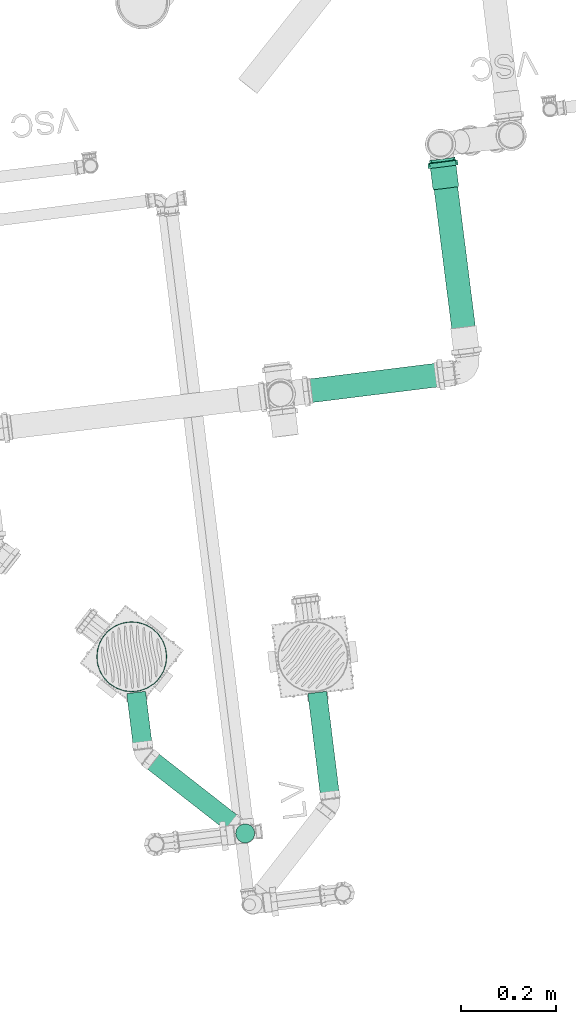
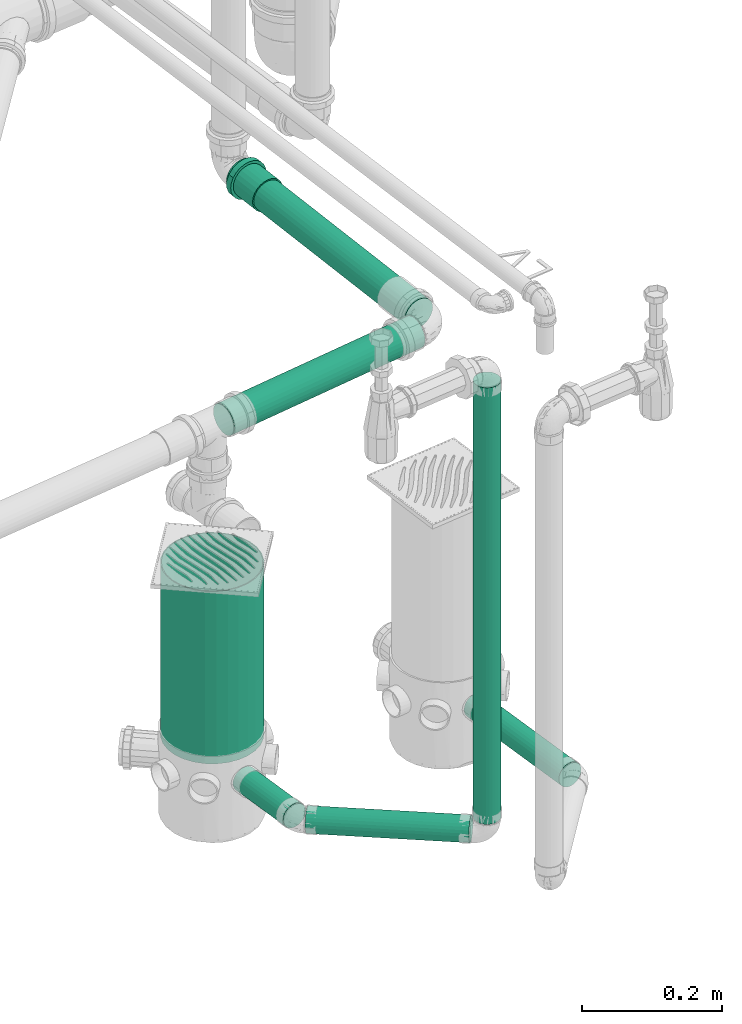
# One storey, part 15 of 97: 6 flow segments, 1 flow fitting, 1 flow terminal.
"""IFC2X3 building model written with IfcOpenShell, lengths in centimetres."""

from ifc_helpers import new_model, entity, si_unit, converted_unit, derived_unit, direction, frame, frame_2d, origin, origin_2d_with_axis, place, context, subcontext, project, spatial, circle, hollow_circle, extrude, faceted_brep, source, transform, mapped, material, type_object, type_shapes, element, save


model = new_model("IFC2X3")

# Units and contexts
model_context = context("Model", 3, precision=0.001, world=origin(), true_north=direction((6.12303176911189e-17, 1.0)))
body_context = subcontext(model_context, "Body", "Model", "MODEL_VIEW")
ifc_project = project(units=[si_unit("LENGTHUNIT", "METRE", prefix="CENTI"), si_unit("AREAUNIT", "SQUARE_METRE"), si_unit("VOLUMEUNIT", "CUBIC_METRE"), converted_unit("PLANEANGLEUNIT", "DEGREE", entity("IfcRatioMeasure", 0.0174532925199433), si_unit("PLANEANGLEUNIT", "RADIAN"), dimensions=[0, 0, 0, 0, 0, 0, 0]), si_unit("MASSUNIT", "GRAM", prefix="KILO"), derived_unit("MASSDENSITYUNIT", [(si_unit("MASSUNIT", "GRAM", prefix="KILO"), 1), (si_unit("LENGTHUNIT", "METRE"), -3)]), derived_unit("MOMENTOFINERTIAUNIT", [(si_unit("LENGTHUNIT", "METRE"), 4)]), si_unit("TIMEUNIT", "SECOND"), si_unit("FREQUENCYUNIT", "HERTZ"), si_unit("THERMODYNAMICTEMPERATUREUNIT", "DEGREE_CELSIUS"), derived_unit("THERMALTRANSMITTANCEUNIT", [(si_unit("MASSUNIT", "GRAM", prefix="KILO"), 1), (si_unit("THERMODYNAMICTEMPERATUREUNIT", "KELVIN"), -1), (si_unit("TIMEUNIT", "SECOND"), -3)]), derived_unit("VOLUMETRICFLOWRATEUNIT", [(si_unit("LENGTHUNIT", "METRE"), 3), (si_unit("TIMEUNIT", "SECOND"), -1)]), si_unit("ELECTRICCURRENTUNIT", "AMPERE"), si_unit("ELECTRICVOLTAGEUNIT", "VOLT"), si_unit("POWERUNIT", "WATT"), si_unit("FORCEUNIT", "NEWTON", prefix="KILO"), si_unit("ILLUMINANCEUNIT", "LUX"), si_unit("LUMINOUSFLUXUNIT", "LUMEN"), si_unit("LUMINOUSINTENSITYUNIT", "CANDELA"), derived_unit("USERDEFINED", [(si_unit("MASSUNIT", "GRAM", prefix="KILO"), -1), (si_unit("LENGTHUNIT", "METRE"), -2), (si_unit("TIMEUNIT", "SECOND"), 3), (si_unit("LUMINOUSFLUXUNIT", "LUMEN"), 1)]), derived_unit("LINEARVELOCITYUNIT", [(si_unit("LENGTHUNIT", "METRE"), 1), (si_unit("TIMEUNIT", "SECOND"), -1)]), si_unit("PRESSUREUNIT", "PASCAL"), derived_unit("USERDEFINED", [(si_unit("LENGTHUNIT", "METRE"), -2), (si_unit("MASSUNIT", "GRAM", prefix="KILO"), 1), (si_unit("TIMEUNIT", "SECOND"), -2)]), derived_unit("LINEARFORCEUNIT", [(si_unit("MASSUNIT", "GRAM", prefix="KILO"), 1), (si_unit("LENGTHUNIT", "METRE"), 1), (si_unit("TIMEUNIT", "SECOND"), -2), (si_unit("LENGTHUNIT", "METRE"), -1)]), derived_unit("PLANARFORCEUNIT", [(si_unit("MASSUNIT", "GRAM", prefix="KILO"), 1), (si_unit("LENGTHUNIT", "METRE"), 1), (si_unit("TIMEUNIT", "SECOND"), -2), (si_unit("LENGTHUNIT", "METRE"), -2)])], contexts=[model_context])

# Site, building, storey
site_placement = place(None, origin())
site = spatial("IfcSite", under=ifc_project, at=site_placement, Name="Default", CompositionType="ELEMENT")
building_placement = place(site_placement, origin())
building = spatial("IfcBuilding", under=site, at=building_placement, Name="HIDROSSANITÁRIO", CompositionType="ELEMENT")
storey_placement = place(building_placement, frame((0.0, 0.0, -260.0)))
storey = spatial("IfcBuildingStorey", under=building, at=storey_placement, Name="TÉRREO-HID", CompositionType="ELEMENT", Elevation=-260.0)

# Flow segments
pipe_segment_type = type_object("IfcPipeSegmentType", Name="Tipos de tubos:Tubo - Esgoto - Série Normal", PredefinedType="NOTDEFINED")
flow_segment_1_placement = place(storey_placement, origin())
element("IfcFlowSegment", 1, at=flow_segment_1_placement, inside=storey, type_object=pipe_segment_type, Name="Tipos de tubos:Tubo - Esgoto - Série Normal", ObjectType="Tipos de tubos:Tubo - Esgoto - Série Normal", context=body_context, shape_type="SweptSolid", body=[
    extrude(circle(Radius=2.5, at=origin_2d_with_axis()), frame((-1623.60552667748, 2855.69252559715, -17.8977394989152), z_axis=(-0.125237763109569, 0.99192523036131, 0.0199960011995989), x_axis=(-0.992123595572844, -0.125262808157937, 0.0)), (0.0, 0.0, 1.0), 41.8274314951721),
])
flow_segment_2_placement = place(storey_placement, origin())
element("IfcFlowSegment", 2, at=flow_segment_2_placement, inside=storey, type_object=pipe_segment_type, Name="Tipos de tubos:Tubo - Esgoto - Série Normal", ObjectType="Tipos de tubos:Tubo - Esgoto - Série Normal", context=body_context, shape_type="SweptSolid", body=[
    extrude(circle(Radius=2.5, at=frame_2d((2.34809378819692e-32, 5.41252306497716e-14), x_axis=(1.0, 0.0))), frame((-1660.11451836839, 2848.01980362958, -18.9042087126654), z_axis=(0.99207609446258, 0.122945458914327, 0.0258734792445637), x_axis=(-0.122986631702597, 0.992408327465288, 0.0)), (0.0, 0.0, 1.0), 34.070046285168),
])
flow_segment_3_placement = place(storey_placement, origin())
element("IfcFlowSegment", 3, at=flow_segment_3_placement, inside=storey, type_object=pipe_segment_type, Name="Tipos de tubos:Tubo - Esgoto - Série Normal", ObjectType="Tipos de tubos:Tubo - Esgoto - Série Normal", context=body_context, shape_type="SweptSolid", body=[
    extrude(circle(Radius=2.0, at=frame_2d((0.0, -4.33146851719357e-13), x_axis=(1.0, 0.0))), frame((-1670.20734491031, 2755.52736173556, -28.3513532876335)), (0.0, 0.0, 1.0), 75.9713532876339),
])
flow_segment_4_placement = place(storey_placement, origin())
element("IfcFlowSegment", 4, at=flow_segment_4_placement, inside=storey, type_object=pipe_segment_type, Name="Tipos de tubos:Tubo - Esgoto - Série Normal", ObjectType="Tipos de tubos:Tubo - Esgoto - Série Normal", context=body_context, shape_type="SweptSolid", body=[
    extrude(circle(Radius=2.0, at=frame_2d((5.31640823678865e-14, 8.59571728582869e-15), x_axis=(1.0, 0.0))), frame((-1655.08128048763, 2785.0851424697, -32.2000000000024), z_axis=(0.12271462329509, -0.992240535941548, 0.0199960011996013), x_axis=(0.992438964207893, 0.122739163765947, 0.0)), (0.0, 0.0, 1.0), 22.4258367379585),
])
flow_segment_5_placement = place(storey_placement, origin())
element("IfcFlowSegment", 5, at=flow_segment_5_placement, inside=storey, type_object=pipe_segment_type, Name="Tipos de tubos:Tubo - Esgoto - Série Normal", ObjectType="Tipos de tubos:Tubo - Esgoto - Série Normal", context=body_context, shape_type="SweptSolid", body=[
    extrude(circle(Radius=2.0, at=origin_2d_with_axis()), frame((-1672.03564967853, 2756.95608330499, -30.7384492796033), z_axis=(-0.787798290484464, 0.615280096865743, -0.0283594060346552), x_axis=(-0.615527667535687, -0.788115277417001, 0.0)), (0.0, 0.0, 1.0), 23.5731330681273),
])
flow_segment_6_placement = place(storey_placement, origin())
element("IfcFlowSegment", 6, at=flow_segment_6_placement, inside=storey, type_object=pipe_segment_type, Name="Tipos de tubos:Tubo - Esgoto - Série Normal", ObjectType="Tipos de tubos:Tubo - Esgoto - Série Normal", context=body_context, shape_type="SweptSolid", body=[
    extrude(circle(Radius=2.0, at=origin_2d_with_axis()), frame((-1691.65196873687, 2773.30648771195, -31.4625007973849), z_axis=(-0.122714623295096, 0.992240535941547, -0.0199960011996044), x_axis=(-0.992438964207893, -0.122739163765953, 0.0)), (0.0, 0.0, 1.0), 11.8773348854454),
])

# Flow fitting
ifc_material_1 = material(Name="PVC Branco")
pipe_fitting_type = type_object("IfcPipeFittingType", Name="Luva Simples para Conexão - Serie Normal - Esgoto - MEP - Tigre:Standard", PredefinedType="NOTDEFINED", material=ifc_material_1)
shared_shape_1 = source(origin(), body_context, "Body", "Brep", [
    faceted_brep([(1.65999999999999, 1.59, -2.75396078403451), (1.65999999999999, 2.24859956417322, -2.24859956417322), (1.65999999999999, 1.35999999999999, -2.35558909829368), (1.65999999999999, 0.703987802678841, -2.62731824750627), (1.65999999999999, 0.82304456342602, -3.07164412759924), (1.65999999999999, 1.9233304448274, -1.92333044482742), (1.65999999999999, 2.75396078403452, -1.59), (1.65999999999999, 2.35558909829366, -1.36000000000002), (1.65999999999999, 2.62731824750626, -0.703987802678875), (1.65999999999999, 3.07164412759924, -0.823044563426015), (1.65999999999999, 2.72, 0.0), (1.65999999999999, 3.18, 0.0), (1.65999999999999, 2.62731824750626, 0.703987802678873), (1.65999999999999, 3.07164412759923, 0.823044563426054), (1.65999999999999, 2.35558909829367, 1.36000000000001), (1.65999999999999, 2.7539607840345, 1.59000000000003), (1.65999999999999, 1.9233304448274, 1.92333044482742), (1.65999999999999, 2.24859956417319, 2.24859956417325), (1.65999999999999, 1.35999999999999, 2.35558909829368), (1.65999999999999, 1.58999999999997, 2.75396078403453), (1.65999999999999, 0.703987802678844, 2.62731824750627), (1.65999999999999, 0.823044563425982, 3.07164412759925), (1.65999999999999, 0.0, 2.72), (1.65999999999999, 0.0, 3.18), (1.65999999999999, -0.703987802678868, 2.62731824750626), (1.65999999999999, -0.823044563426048, 3.07164412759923), (1.65999999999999, -1.36000000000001, 2.35558909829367), (1.65999999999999, -1.59000000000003, 2.7539607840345), (1.65999999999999, -1.92333044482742, 1.9233304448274), (1.65999999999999, -2.24859956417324, 2.2485995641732), (1.65999999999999, -2.35558909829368, 1.35999999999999), (1.65999999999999, -2.75396078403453, 1.58999999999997), (1.65999999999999, -3.07164412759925, 0.823044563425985), (1.65999999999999, -2.62731824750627, 0.703987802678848), (1.65999999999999, -3.18, 0.0), (1.65999999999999, -2.72, 0.0), (1.65999999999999, -3.07164412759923, -0.823044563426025), (1.65999999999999, -2.62731824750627, -0.703987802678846), (1.65999999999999, -2.75396078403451, -1.59000000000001), (1.65999999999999, -2.35558909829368, -1.35999999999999), (1.65999999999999, -2.24859956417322, -2.24859956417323), (1.65999999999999, -1.92333044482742, -1.9233304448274), (1.65999999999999, -1.58999999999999, -2.75396078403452), (1.65999999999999, -1.36000000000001, -2.35558909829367), (1.65999999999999, -0.823044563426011, -3.07164412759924), (1.65999999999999, -0.70398780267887, -2.62731824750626), (1.65999999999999, 0.0, -3.18), (1.65999999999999, 0.0, -2.72), (0.650000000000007, -1.07081089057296, 2.94292196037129), (0.650000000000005, -2.43590738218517, 2.04420038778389), (0.650000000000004, -2.7120498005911, 1.56595386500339), (0.650000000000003, -2.98819221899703, 1.08770734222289), (0.650000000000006, -1.58976972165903, 2.75409372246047), (0.650000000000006, -2.0128385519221, 2.39914705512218), (0.650000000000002, -3.08409610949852, 0.54385367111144), (0.650000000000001, -3.18, 0.0), (0.650000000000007, -0.551852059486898, 3.13175019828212), (0.650000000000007, 0.552637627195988, 3.13161167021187), (0.650000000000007, 0.000392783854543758, 3.13168093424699), (0.650000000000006, 2.01344030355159, 2.39864206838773), (0.650000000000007, 1.07154907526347, 2.94265325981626), (0.650000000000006, 1.59046052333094, 2.75369484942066), (0.650000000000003, 2.98846497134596, 1.08695773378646), (0.650000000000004, 2.7124425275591, 1.56527351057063), (0.650000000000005, 2.43642008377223, 2.0435892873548), (0.650000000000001, 3.18, 0.0), (0.649999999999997, 2.43642008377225, -2.04358928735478), (0.649999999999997, 2.71244252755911, -1.5652735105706), (0.649999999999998, 2.98846497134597, -1.08695773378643), (0.649999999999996, 1.59046052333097, -2.75369484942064), (0.649999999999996, 2.01344030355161, -2.39864206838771), (0.649999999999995, 1.07154907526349, -2.94265325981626), (0.649999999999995, 0.552637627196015, -3.13161167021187), (0.649999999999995, -0.551852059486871, -3.13175019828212), (0.649999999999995, 0.000392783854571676, -3.13168093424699), (0.649999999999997, -2.01283855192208, -2.3991470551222), (0.649999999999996, -1.58976972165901, -2.75409372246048), (0.649999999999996, -1.07081089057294, -2.9429219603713), (0.649999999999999, -2.98819221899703, -1.08770734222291), (0.649999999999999, -2.71204980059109, -1.56595386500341), (0.649999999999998, -2.43590738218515, -2.04420038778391), (0.65, -3.08409610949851, -0.543853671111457), (0.64999999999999, -3.06961738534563, -0.625959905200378), (6.20000000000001, 1.36, -2.35558909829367), (6.20000000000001, 1.92333044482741, -1.92333044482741), (6.20000000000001, 1.24999999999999, -2.1650635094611), (6.20000000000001, 0.647047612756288, -2.41481456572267), (6.20000000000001, 0.70398780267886, -2.62731824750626), (6.20000000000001, 1.76776695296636, -1.76776695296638), (6.20000000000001, 2.35558909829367, -1.36), (6.20000000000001, 2.16506350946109, -1.25000000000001), (6.20000000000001, 2.41481456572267, -0.647047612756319), (6.20000000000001, 2.62731824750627, -0.703987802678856), (6.20000000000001, 2.5, 0.0), (6.20000000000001, 2.72, 0.0), (6.20000000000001, 2.41481456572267, 0.647047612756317), (6.20000000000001, 2.62731824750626, 0.703987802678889), (6.20000000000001, 2.16506350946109, 1.25000000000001), (6.20000000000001, 2.35558909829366, 1.36000000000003), (6.20000000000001, 1.76776695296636, 1.76776695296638), (6.20000000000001, 1.92333044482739, 1.92333044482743), (6.20000000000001, 1.24999999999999, 2.1650635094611), (6.20000000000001, 1.35999999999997, 2.35558909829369), (6.20000000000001, 0.64704761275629, 2.41481456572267), (6.20000000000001, 0.703987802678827, 2.62731824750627), (6.20000000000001, 0.0, 2.5), (6.20000000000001, 0.0, 2.72), (6.20000000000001, -0.647047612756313, 2.41481456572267), (6.20000000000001, -0.703987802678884, 2.62731824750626), (6.20000000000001, -1.25000000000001, 2.16506350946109), (6.20000000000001, -1.36000000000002, 2.35558909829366), (6.20000000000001, -1.76776695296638, 1.76776695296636), (6.20000000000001, -1.92333044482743, 1.92333044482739), (6.20000000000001, -2.1650635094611, 1.24999999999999), (6.20000000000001, -2.35558909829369, 1.35999999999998), (6.20000000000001, -2.62731824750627, 0.703987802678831), (6.20000000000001, -2.41481456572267, 0.647047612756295), (6.20000000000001, -2.72, 0.0), (6.20000000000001, -2.5, 0.0), (6.20000000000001, -2.62731824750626, -0.703987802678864), (6.20000000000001, -2.41481456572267, -0.647047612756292), (6.20000000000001, -2.35558909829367, -1.36000000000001), (6.20000000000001, -2.1650635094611, -1.24999999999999), (6.20000000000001, -1.9233304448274, -1.92333044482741), (6.20000000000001, -1.76776695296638, -1.76776695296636), (6.20000000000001, -1.36, -2.35558909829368), (6.20000000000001, -1.25000000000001, -2.16506350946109), (6.20000000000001, -0.703987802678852, -2.62731824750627), (6.20000000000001, -0.647047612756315, -2.41481456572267), (6.20000000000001, 0.0, -2.72), (6.20000000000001, 0.0, -2.5), (0.0, 1.24999999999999, -2.1650635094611), (0.0, 1.92333044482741, -1.92333044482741), (0.0, 1.36, -2.35558909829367), (0.0, 0.647047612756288, -2.41481456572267), (0.0, 1.76776695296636, -1.76776695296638), (0.0, 2.35558909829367, -1.36), (0.0, 2.16506350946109, -1.25000000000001), (0.0, 2.41481456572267, -0.647047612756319), (0.0, 2.62731824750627, -0.703987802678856), (0.0, 2.5, 0.0), (0.0, 2.72, 0.0), (0.0, 2.41481456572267, 0.647047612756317), (0.0, 2.62731824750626, 0.703987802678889), (0.0, 2.16506350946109, 1.25000000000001), (0.0, 2.35558909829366, 1.36000000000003), (0.0, 1.76776695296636, 1.76776695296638), (0.0, 1.92333044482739, 1.92333044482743), (0.0, 1.24999999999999, 2.1650635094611), (0.0, 1.35999999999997, 2.35558909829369), (0.0, 0.64704761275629, 2.41481456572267), (0.0, 0.703987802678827, 2.62731824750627), (0.0, 0.0, 2.5), (0.0, 0.0, 2.72), (0.0, -0.647047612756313, 2.41481456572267), (0.0, -0.703987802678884, 2.62731824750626), (0.0, -1.25000000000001, 2.16506350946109), (0.0, -1.36000000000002, 2.35558909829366), (0.0, -1.76776695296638, 1.76776695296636), (0.0, -1.92333044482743, 1.92333044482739), (0.0, -2.1650635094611, 1.24999999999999), (0.0, -2.35558909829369, 1.35999999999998), (0.0, -2.62731824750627, 0.703987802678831), (0.0, -2.41481456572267, 0.647047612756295), (0.0, -2.72, 0.0), (0.0, -2.5, 0.0), (0.0, -2.62731824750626, -0.703987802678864), (0.0, -2.41481456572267, -0.647047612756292), (0.0, -2.35558909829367, -1.36000000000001), (0.0, -2.1650635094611, -1.24999999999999), (0.0, -1.9233304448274, -1.92333044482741), (0.0, -1.76776695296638, -1.76776695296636), (0.0, -1.36, -2.35558909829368), (0.0, -1.25000000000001, -2.16506350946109), (0.0, -0.703987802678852, -2.62731824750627), (0.0, -0.647047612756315, -2.41481456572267), (0.0, 0.0, -2.72), (0.0, 0.0, -2.5), (0.0, 0.70398780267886, -2.62731824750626), (0.53, -2.63796899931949, 0.465183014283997), (0.529999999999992, -2.62558467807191, 0.535412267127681), (0.530000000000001, -2.55593799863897, 0.930366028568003), (0.530000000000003, -2.08354342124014, 1.74849844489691), (0.530000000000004, -1.72167322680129, 2.05210062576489), (0.530000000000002, -2.31974070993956, 1.33943223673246), (0.530000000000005, -0.472024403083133, 2.67872972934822), (0.530000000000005, -0.915913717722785, 2.51721626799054), (0.53, -2.72, 0.0), (0.530000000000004, -1.35980303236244, 2.35570280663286), (0.530000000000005, 0.916545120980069, 2.51698643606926), (0.530000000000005, 1.36039390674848, 2.35536163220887), (0.530000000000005, 0.47269633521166, 2.67861123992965), (0.530000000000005, 1.72218793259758, 2.05166868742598), (0.530000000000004, 2.08398195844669, 1.7479757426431), (0.530000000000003, 2.5561712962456, 0.929724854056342), (0.53, 2.72, 0.0), (0.530000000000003, 2.32007662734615, 1.33885029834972), (0.530000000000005, 0.000335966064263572, 2.67867048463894), (0.529999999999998, 2.55617129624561, -0.929724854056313), (0.529999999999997, 2.08398195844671, -1.74797574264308), (0.529999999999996, 1.7221879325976, -2.05166868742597), (0.529999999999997, 2.32007662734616, -1.3388502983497), (0.529999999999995, 0.472696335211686, -2.67861123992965), (0.529999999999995, 0.916545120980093, -2.51698643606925), (0.529999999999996, 1.3603939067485, -2.35536163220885), (0.529999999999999, -2.63796899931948, -0.465183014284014), (0.529999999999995, -0.915913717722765, -2.51721626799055), (0.529999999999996, -1.35980303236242, -2.35570280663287), (0.529999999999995, -0.47202440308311, -2.67872972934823), (0.529999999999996, -1.72167322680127, -2.0521006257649), (0.529999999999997, -2.08354342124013, -1.74849844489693), (0.529999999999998, -2.55593799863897, -0.930366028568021), (0.529999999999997, -2.31974070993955, -1.33943223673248), (0.529999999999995, 0.000335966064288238, -2.67867048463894), (3.9, -2.5, 0.0), (3.9, 2.5, 0.0)], [[[0, 1, 2]], [[0, 2, 3]], [[3, 4, 0]], [[2, 1, 5]], [[6, 5, 1]], [[7, 5, 6]], [[8, 7, 6]], [[8, 6, 9]], [[8, 9, 10]], [[10, 9, 11]], [[12, 10, 11]], [[12, 11, 13]], [[14, 12, 13]], [[14, 13, 15]], [[16, 14, 15]], [[15, 17, 16]], [[17, 18, 16]], [[17, 19, 18]], [[18, 19, 20]], [[21, 20, 19]], [[20, 21, 22]], [[22, 21, 23]], [[22, 23, 24]], [[24, 23, 25]], [[24, 25, 26]], [[27, 26, 25]], [[27, 28, 26]], [[28, 27, 29]], [[30, 28, 29]], [[31, 30, 29]], [[32, 30, 31]], [[33, 30, 32]], [[33, 32, 34]], [[35, 33, 34]], [[36, 35, 34]], [[36, 37, 35]], [[37, 36, 38]], [[39, 37, 38]], [[39, 38, 40]], [[39, 40, 41]], [[40, 42, 41]], [[41, 42, 43]], [[43, 42, 44]], [[44, 45, 43]], [[46, 45, 44]], [[4, 47, 46]], [[46, 47, 45]], [[4, 3, 47]], [[48, 27, 25]], [[31, 29, 49]], [[31, 49, 50, 51]], [[52, 53, 27]], [[32, 51, 54]], [[54, 55, 34]], [[54, 34, 32]], [[25, 56, 48]], [[49, 29, 53]], [[23, 57, 58, 56]], [[59, 19, 17]], [[27, 53, 29]], [[48, 52, 27]], [[31, 51, 32]], [[57, 23, 21]], [[60, 19, 61]], [[15, 62, 63, 64]], [[19, 60, 21]], [[15, 13, 62]], [[17, 64, 59]], [[57, 21, 60]], [[23, 56, 25]], [[15, 64, 17]], [[13, 65, 62]], [[13, 11, 65]], [[59, 61, 19]], [[65, 11, 9]], [[6, 1, 66]], [[6, 66, 67, 68]], [[69, 70, 0]], [[68, 65, 9]], [[71, 69, 0]], [[71, 0, 4]], [[4, 72, 71]], [[66, 1, 70]], [[46, 73, 74, 72]], [[75, 76, 42]], [[0, 70, 1]], [[75, 42, 40]], [[6, 68, 9]], [[73, 46, 44]], [[77, 42, 76]], [[38, 78, 79, 80]], [[42, 77, 44]], [[38, 36, 78]], [[40, 80, 75]], [[73, 44, 77]], [[46, 72, 4]], [[38, 80, 40]], [[36, 81, 82, 78]], [[55, 81, 34]], [[34, 81, 36]], [[83, 84, 85]], [[83, 85, 86]], [[86, 87, 83]], [[85, 84, 88]], [[89, 88, 84]], [[88, 89, 90]], [[90, 89, 91]], [[92, 91, 89]], [[92, 93, 91]], [[93, 92, 94]], [[95, 93, 94]], [[94, 96, 95]], [[95, 96, 97]], [[98, 97, 96]], [[97, 98, 99]], [[99, 98, 100]], [[101, 99, 100]], [[100, 102, 101]], [[101, 102, 103]], [[104, 103, 102]], [[103, 104, 105]], [[105, 104, 106]], [[105, 106, 107]], [[107, 106, 108]], [[107, 108, 109]], [[110, 109, 108]], [[110, 111, 109]], [[111, 110, 112]], [[112, 113, 111]], [[114, 113, 112]], [[113, 114, 115]], [[115, 116, 113]], [[117, 116, 115]], [[117, 118, 116]], [[119, 118, 117]], [[119, 120, 118]], [[120, 119, 121]], [[121, 122, 120]], [[122, 121, 123]], [[122, 123, 124]], [[123, 125, 124]], [[124, 125, 126]], [[126, 125, 127]], [[127, 128, 126]], [[129, 128, 127]], [[87, 130, 129]], [[129, 130, 128]], [[87, 86, 130]], [[131, 132, 133]], [[134, 131, 133]], [[135, 132, 131]], [[132, 135, 136]], [[137, 136, 135]], [[138, 136, 137]], [[136, 138, 139]], [[138, 140, 139]], [[141, 139, 140]], [[141, 140, 142]], [[142, 143, 141]], [[144, 143, 142]], [[143, 144, 145]], [[146, 145, 144]], [[147, 145, 146]], [[147, 146, 148]], [[148, 149, 147]], [[150, 149, 148]], [[149, 150, 151]], [[152, 151, 150]], [[153, 151, 152]], [[154, 153, 152]], [[155, 153, 154]], [[156, 155, 154]], [[155, 156, 157]], [[156, 158, 157]], [[159, 157, 158]], [[158, 160, 159]], [[159, 160, 161]], [[162, 161, 160]], [[160, 163, 162]], [[162, 163, 164]], [[163, 165, 164]], [[164, 165, 166]], [[165, 167, 166]], [[168, 166, 167]], [[167, 169, 168]], [[170, 168, 169]], [[171, 170, 169]], [[171, 172, 170]], [[173, 172, 171]], [[174, 172, 173]], [[173, 175, 174]], [[174, 175, 176]], [[175, 177, 176]], [[177, 134, 178]], [[176, 177, 178]], [[133, 178, 134]], [[162, 179, 180, 181]], [[159, 182, 183]], [[182, 161, 181, 184]], [[185, 155, 186]], [[161, 162, 181]], [[187, 179, 164]], [[183, 188, 157]], [[183, 157, 159]], [[161, 182, 159]], [[189, 190, 149]], [[189, 149, 151]], [[157, 188, 186]], [[157, 186, 155]], [[153, 155, 185]], [[164, 179, 162]], [[151, 191, 189]], [[147, 192, 193]], [[143, 194, 195]], [[194, 145, 193, 196]], [[143, 195, 141]], [[10, 12, 96, 94]], [[149, 192, 147]], [[153, 185, 197, 191]], [[153, 191, 151]], [[145, 147, 193]], [[190, 192, 149]], [[145, 194, 143]], [[139, 195, 198]], [[132, 199, 200]], [[199, 136, 198, 201]], [[202, 178, 203]], [[136, 139, 198]], [[139, 141, 195]], [[92, 8, 10, 94]], [[133, 203, 178]], [[200, 204, 133]], [[136, 199, 132]], [[205, 164, 166]], [[206, 207, 172]], [[133, 204, 203]], [[206, 172, 174]], [[176, 178, 202]], [[200, 133, 132]], [[174, 208, 206]], [[170, 209, 210]], [[166, 211, 205]], [[211, 168, 210, 212]], [[168, 211, 166]], [[172, 209, 170]], [[176, 202, 213, 208]], [[176, 208, 174]], [[168, 170, 210]], [[207, 209, 172]], [[205, 187, 164]], [[116, 118, 214, 165, 163]], [[156, 109, 111, 158]], [[111, 113, 160, 158]], [[113, 116, 163, 160]], [[107, 109, 156, 154]], [[154, 152, 105, 107]], [[103, 105, 152, 150]], [[103, 150, 148, 101]], [[142, 95, 97, 144]], [[97, 99, 146, 144]], [[99, 101, 148, 146]], [[93, 95, 142, 140, 215]], [[215, 140, 138, 91, 93]], [[135, 131, 85, 88]], [[90, 91, 138, 137]], [[90, 137, 135, 88]], [[86, 85, 131, 134]], [[134, 177, 130, 86]], [[128, 130, 177, 175]], [[128, 175, 173, 126]], [[167, 120, 122, 169]], [[122, 124, 171, 169]], [[124, 126, 173, 171]], [[118, 120, 167, 165, 214]], [[211, 78, 82, 81, 55, 187, 205]], [[79, 78, 211, 212, 210, 80]], [[75, 80, 210, 209, 207, 76]], [[207, 206, 208, 73, 77, 76]], [[213, 202, 72, 74, 73, 208]], [[203, 204, 69, 71, 72, 202]], [[198, 195, 65, 68]], [[199, 201, 198, 68, 67, 66]], [[204, 200, 199, 66, 70, 69]], [[195, 194, 62, 65]], [[197, 185, 56, 58, 57, 191]], [[63, 62, 194, 196, 193, 64]], [[57, 60, 61, 190, 189, 191]], [[193, 192, 190, 61, 59, 64]], [[48, 56, 185, 186, 188, 52]], [[187, 55, 54, 51, 181, 180, 179]], [[182, 184, 181, 51, 50, 49]], [[188, 183, 182, 49, 53, 52]], [[30, 33, 115, 114]], [[117, 115, 33, 35]], [[26, 28, 112, 110]], [[114, 112, 28, 30]], [[24, 26, 110, 108]], [[108, 106, 22, 24]], [[18, 20, 104, 102]], [[100, 16, 18, 102]], [[12, 14, 98, 96]], [[100, 98, 14, 16]], [[104, 20, 22, 106]], [[89, 7, 8, 92]], [[83, 87, 3, 2]], [[7, 89, 84, 5]], [[83, 2, 5, 84]], [[87, 129, 47, 3]], [[43, 45, 127, 125]], [[123, 41, 43, 125]], [[37, 39, 121, 119]], [[123, 121, 39, 41]], [[35, 37, 119, 117]], [[127, 45, 47, 129]]]),
])
type_shapes(pipe_fitting_type, [shared_shape_1])
flow_fitting_placement = place(storey_placement, frame((-1628.84390063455, 2897.18221021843, -17.0613581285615), z_axis=(-0.992123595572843, -0.125262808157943, 0.0), x_axis=(0.125237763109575, -0.991925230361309, -0.0199960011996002)))
element("IfcFlowFitting", 7, at=flow_fitting_placement, inside=storey, type_object=pipe_fitting_type, material=ifc_material_1, Name="Luva Simples para Conexão - Serie Normal - Esgoto - MEP - Tigre:Standard", ObjectType="Luva Simples para Conexão - Serie Normal - Esgoto - MEP - Tigre:Standard", context=body_context, shape_type="MappedRepresentation", body=[
    mapped(shared_shape_1, transform((0.0, 0.0, 0.0), scale=1.0)),
])

# Flow terminal
ifc_material_2 = material(Name="Tigre - Caixas e Ralos_PVC Branco")
distribution_element_type = type_object("IfcDistributionElementType", Name="Prolongamento para Caixa Sifonada - Caixas e Ralos - Esgoto - MEP - Tigre:150 x 150 mm", material=ifc_material_2)
shared_shape_2 = source(origin(), body_context, "Body", "SweptSolid", [
    extrude(hollow_circle(Radius=7.4, WallThickness=0.148000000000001, at=frame_2d((-3.46389583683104e-16, 1.19550298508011e-14), x_axis=(1.0, 0.0))), frame((0.0, 0.0, -30.0)), (0.0, 0.0, 1.0), 29.9999999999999),
])
type_shapes(distribution_element_type, [shared_shape_2])
flow_terminal_placement = place(storey_placement, frame((-1694.03540680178, 2792.61489689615, 1.79999999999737), z_axis=(0.0, 0.0, 1.0), x_axis=(0.788186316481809, -0.61543669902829, 0.0)))
element("IfcFlowTerminal", 8, at=flow_terminal_placement, inside=storey, type_object=distribution_element_type, material=ifc_material_2, Name="Prolongamento para Caixa Sifonada - Caixas e Ralos - Esgoto - MEP - Tigre:150 x 150 mm", ObjectType="Prolongamento para Caixa Sifonada - Caixas e Ralos - Esgoto - MEP - Tigre:150 x 150 mm", context=body_context, shape_type="MappedRepresentation", body=[
    mapped(shared_shape_2, transform((0.0, 0.0, 0.0), scale=1.0)),
])

save(model, "model.ifc")
